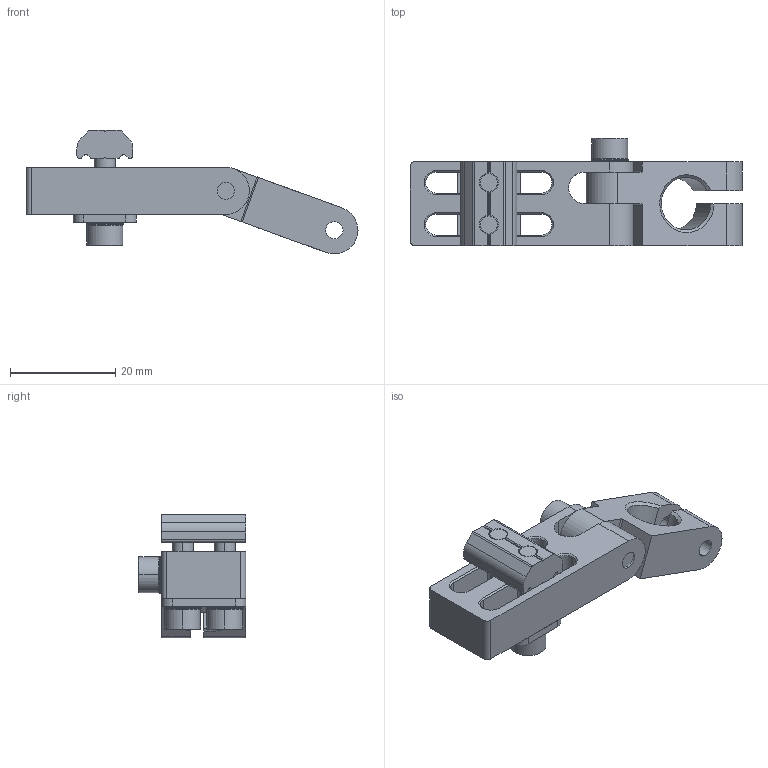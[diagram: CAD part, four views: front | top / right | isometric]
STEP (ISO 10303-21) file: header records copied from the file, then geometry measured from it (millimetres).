
FILE_DESCRIPTION (( 'STEP AP214' ), '1' );
FILE_NAME ('SMBE3-1020T.STEP', '2022-12-14T03:37:45', ( '' ), ( '' ), 'SwSTEP 2.0', 'SolidWorks 2018', '' );
FILE_SCHEMA (( 'AUTOMOTIVE_DESIGN' ));
Length unit declared in the file: millimetre
Products named in the file (1): SMBE3-1020T
Bounding box: 63.17 x 20.45 x 23.57 mm (x, y, z)
Volume: 7924.3 mm3; surface area: 7352.4 mm2
Topology: 10 solids, 10 shells, 697 faces, 2000 edges, 1319 vertices
Faces by surface type: plane 573, cylinder 83, cone 41
Entity records: 30885 total; most frequent: CARTESIAN_POINT 4215, DIRECTION 4045, ORIENTED_EDGE 4000, EDGE_CURVE 2000, AXIS2_PLACEMENT_3D 1381, VERTEX_POINT 1319, VECTOR 1283, LINE 1283
